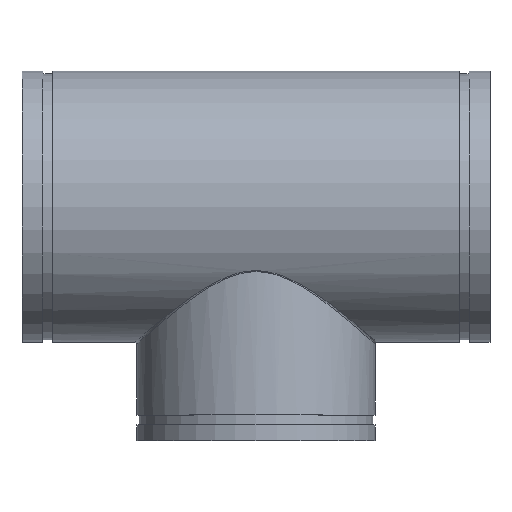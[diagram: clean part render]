
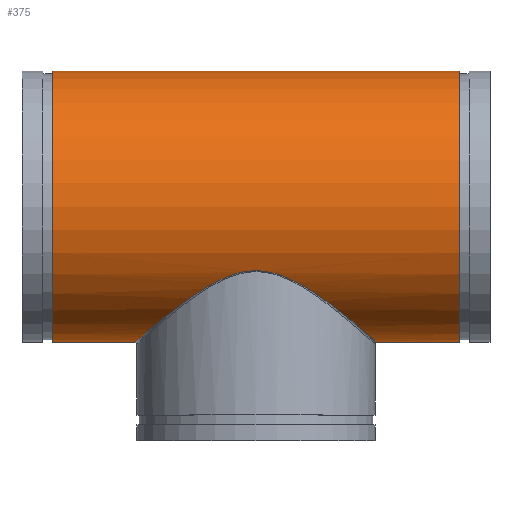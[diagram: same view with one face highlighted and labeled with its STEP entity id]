
A CAD part, top view. The second image highlights one B-rep face of the part: STEP entity #375.
In plain terms, the highlighted cylindrical face has radius 220.98 mm (diameter 441.96 mm), a full revolution.
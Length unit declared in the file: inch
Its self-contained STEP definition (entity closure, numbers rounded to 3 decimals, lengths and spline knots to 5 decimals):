
#54=FACE_BOUND('',#119,.T.);
#65=LINE('',#924,#76);
#76=VECTOR('',#483,8.7);
#87=CYLINDRICAL_SURFACE('',#415,8.7);
#98=FACE_OUTER_BOUND('',#118,.T.);
#118=EDGE_LOOP('',(#266,#267,#268,#269));
#119=EDGE_LOOP('',(#270));
#150=B_SPLINE_CURVE_WITH_KNOTS('',3,(#877,#878,#879,#880,#881,#882,#883,
#884,#885,#886,#887,#888,#889,#890,#891,#892,#893,#894,#895,#896,#897,#898,
#899,#900,#901,#902,#903,#904,#905,#906,#907,#908,#909,#910,#911,#912,#913,
#914,#915,#916,#917,#918,#919),.UNSPECIFIED.,.T.,.F.,(4,1,1,1,1,1,1,1,1,
1,1,1,1,1,1,1,1,1,1,1,1,1,1,1,1,1,1,1,1,1,1,1,1,1,1,1,1,1,1,1,4),(-129.25075,
-126.9427,-124.63465,-122.3266,-120.01855,
-115.40245,-110.78635,-104.63156,-101.55416,
-98.47676,-95.39936,-92.32196,-89.24456,
-86.16716,-80.01237,-76.93497,-73.85757,
-70.78017,-67.70277,-65.65117,-63.59957,
-61.54797,-58.47058,-55.39318,-52.31578,
-49.23838,-43.08358,-40.00618,-36.92878,
-33.85139,-30.77399,-27.69659,-24.61919,
-21.54179,-18.46439,-13.84829,-9.2322,
-6.92415,-4.6161,-2.30805,0.),.UNSPECIFIED.);
#154=CIRCLE('',#416,8.7);
#155=CIRCLE('',#417,8.7);
#182=VERTEX_POINT('',#826);
#185=VERTEX_POINT('',#921);
#186=VERTEX_POINT('',#923);
#219=EDGE_CURVE('',#182,#182,#150,.T.);
#220=EDGE_CURVE('',#185,#185,#154,.T.);
#221=EDGE_CURVE('',#185,#186,#65,.T.);
#222=EDGE_CURVE('',#186,#186,#155,.T.);
#266=ORIENTED_EDGE('',*,*,#220,.T.);
#267=ORIENTED_EDGE('',*,*,#221,.T.);
#268=ORIENTED_EDGE('',*,*,#222,.T.);
#269=ORIENTED_EDGE('',*,*,#221,.F.);
#270=ORIENTED_EDGE('',*,*,#219,.F.);
#375=ADVANCED_FACE('',(#98,#54),#87,.T.);
#415=AXIS2_PLACEMENT_3D('',#920,#479,#480);
#416=AXIS2_PLACEMENT_3D('',#922,#481,#482);
#417=AXIS2_PLACEMENT_3D('',#925,#484,#485);
#479=DIRECTION('center_axis',(-1.,0.,0.));
#480=DIRECTION('ref_axis',(0.,-1.,0.));
#481=DIRECTION('center_axis',(1.,0.,0.));
#482=DIRECTION('ref_axis',(0.,-1.,0.));
#483=DIRECTION('',(1.,0.,0.));
#484=DIRECTION('center_axis',(-1.,0.,0.));
#485=DIRECTION('ref_axis',(0.,-1.,0.));
#826=CARTESIAN_POINT('',(0.,-4.11579,-7.66487));
#877=CARTESIAN_POINT('Ctrl Pts',(0.,-4.11579,
-7.66487));
#878=CARTESIAN_POINT('Ctrl Pts',(0.31527,-4.11579,-7.66487));
#879=CARTESIAN_POINT('Ctrl Pts',(0.94523,-4.18847,-7.6264));
#880=CARTESIAN_POINT('Ctrl Pts',(1.83531,-4.47415,-7.46508));
#881=CARTESIAN_POINT('Ctrl Pts',(2.65928,-4.86486,-7.21856));
#882=CARTESIAN_POINT('Ctrl Pts',(3.6777,-5.46253,-6.79083));
#883=CARTESIAN_POINT('Ctrl Pts',(4.82412,-6.27239,-6.08098));
#884=CARTESIAN_POINT('Ctrl Pts',(6.14125,-7.30933,-4.83121));
#885=CARTESIAN_POINT('Ctrl Pts',(7.06351,-8.08694,-3.37016));
#886=CARTESIAN_POINT('Ctrl Pts',(7.58006,-8.53066,-1.84636));
#887=CARTESIAN_POINT('Ctrl Pts',(7.78328,-8.70728,-0.62573));
#888=CARTESIAN_POINT('Ctrl Pts',(7.7836,-8.70736,0.62521));
#889=CARTESIAN_POINT('Ctrl Pts',(7.57976,-8.53068,1.84634));
#890=CARTESIAN_POINT('Ctrl Pts',(7.19345,-8.19812,2.98816));
#891=CARTESIAN_POINT('Ctrl Pts',(6.47253,-7.58892,4.36446));
#892=CARTESIAN_POINT('Ctrl Pts',(5.5072,-6.79855,5.49227));
#893=CARTESIAN_POINT('Ctrl Pts',(4.36947,-5.9474,6.36975));
#894=CARTESIAN_POINT('Ctrl Pts',(3.43009,-5.30976,6.90664));
#895=CARTESIAN_POINT('Ctrl Pts',(2.39997,-4.71784,7.31921));
#896=CARTESIAN_POINT('Ctrl Pts',(1.38479,-4.30093,7.56478));
#897=CARTESIAN_POINT('Ctrl Pts',(0.42323,-4.10899,7.66856));
#898=CARTESIAN_POINT('Ctrl Pts',(-0.42309,-4.10903,7.66855));
#899=CARTESIAN_POINT('Ctrl Pts',(-1.38452,-4.30081,7.56485));
#900=CARTESIAN_POINT('Ctrl Pts',(-2.3999,-4.71782,7.31921));
#901=CARTESIAN_POINT('Ctrl Pts',(-3.42986,-5.30962,6.90675));
#902=CARTESIAN_POINT('Ctrl Pts',(-4.36917,-5.94717,6.36995));
#903=CARTESIAN_POINT('Ctrl Pts',(-5.50718,-6.79857,5.4923));
#904=CARTESIAN_POINT('Ctrl Pts',(-6.47241,-7.58877,4.36465));
#905=CARTESIAN_POINT('Ctrl Pts',(-7.19335,-8.19806,2.98833));
#906=CARTESIAN_POINT('Ctrl Pts',(-7.57969,-8.53059,1.84675));
#907=CARTESIAN_POINT('Ctrl Pts',(-7.78351,-8.70734,0.62542));
#908=CARTESIAN_POINT('Ctrl Pts',(-7.78342,-8.70733,-0.6252));
#909=CARTESIAN_POINT('Ctrl Pts',(-7.57994,-8.5307,-1.84641));
#910=CARTESIAN_POINT('Ctrl Pts',(-7.19311,-8.19803,-2.98833));
#911=CARTESIAN_POINT('Ctrl Pts',(-6.65325,-7.74133,-4.02018));
#912=CARTESIAN_POINT('Ctrl Pts',(-5.87848,-7.1022,-5.08019));
#913=CARTESIAN_POINT('Ctrl Pts',(-4.82371,-6.27226,-6.08158));
#914=CARTESIAN_POINT('Ctrl Pts',(-3.67835,-5.46288,-6.79031));
#915=CARTESIAN_POINT('Ctrl Pts',(-2.65912,-4.86477,-7.21874));
#916=CARTESIAN_POINT('Ctrl Pts',(-1.83536,-4.47418,-7.465));
#917=CARTESIAN_POINT('Ctrl Pts',(-0.9452,-4.18845,-7.62644));
#918=CARTESIAN_POINT('Ctrl Pts',(-0.31527,-4.11579,-7.66487));
#919=CARTESIAN_POINT('Ctrl Pts',(0.,-4.11579,
-7.66487));
#920=CARTESIAN_POINT('Origin',(15.,0.,0.));
#921=CARTESIAN_POINT('',(-13.035,8.7,0.));
#922=CARTESIAN_POINT('Origin',(-13.035,0.,0.));
#923=CARTESIAN_POINT('',(13.035,8.7,0.));
#924=CARTESIAN_POINT('',(15.,8.7,0.));
#925=CARTESIAN_POINT('Origin',(13.035,0.,0.));
